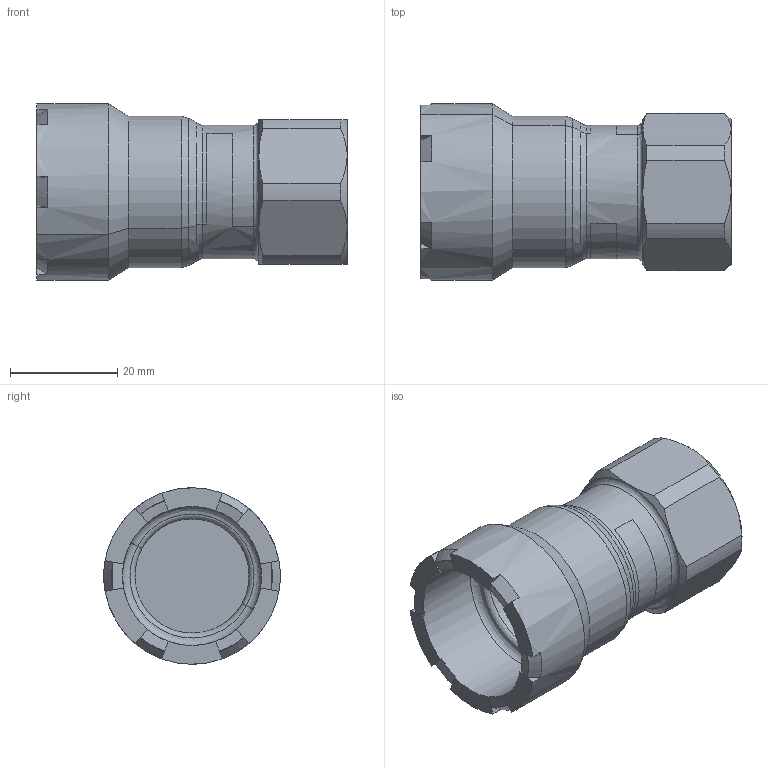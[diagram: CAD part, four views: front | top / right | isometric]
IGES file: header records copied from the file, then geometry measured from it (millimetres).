
Start section: 3D InterOp IGES (Version 26 1 0), Spatial Corp. Copyright (c) 1999-2007.
Global section: file name: pim0006003.igs; native system: Spatial Corp.; preprocessor: 3D InterOp ACIS/IGES; author: CAD-PIM; organization: TransMagic, Inc.; date: 20160706.092636; units: millimetre
Bounding box: 58 x 32.99 x 33 mm (x, y, z)
Volume: 21705.9 mm3; surface area: 9653.1 mm2
Topology: 1 solids, 1 shells, 92 faces, 248 edges, 156 vertices
Faces by surface type: bspline 92
